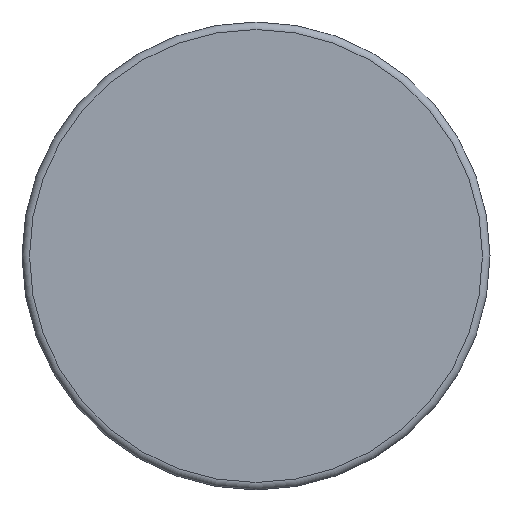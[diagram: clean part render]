
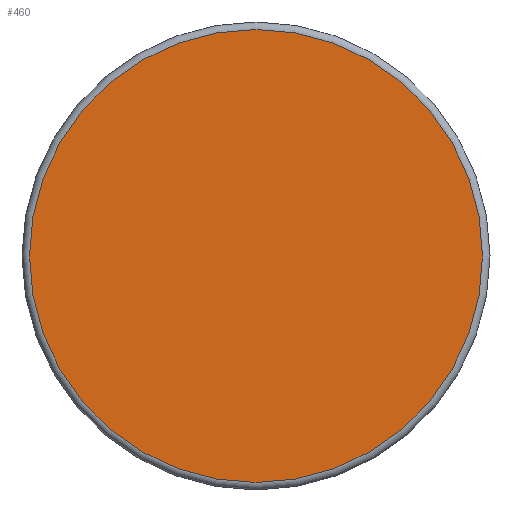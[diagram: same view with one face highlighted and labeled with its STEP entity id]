
A CAD part, top view. The second image highlights one B-rep face of the part: STEP entity #460.
In plain terms, the highlighted planar face has unit normal (0, 0, 1).
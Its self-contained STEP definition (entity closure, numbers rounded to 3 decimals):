
#429=CARTESIAN_POINT('',(300.05,0.,454.));
#430=VERTEX_POINT('',#429);
#431=CARTESIAN_POINT('',(0.,0.,454.));
#432=DIRECTION('',(0.0,0.0,-1.0));
#433=DIRECTION('',(-1.0,0.0,0.0));
#434=AXIS2_PLACEMENT_3D('',#431,#432,#433);
#435=CIRCLE('',#434,300.05);
#436=EDGE_CURVE('',#430,#430,#435,.T.);
#452=CARTESIAN_POINT('',(0.,0.,454.));
#453=DIRECTION('',(0.0,0.0,-1.0));
#454=DIRECTION('',(1.0,0.0,0.0));
#455=AXIS2_PLACEMENT_3D('',#452,#453,#454);
#456=PLANE('',#455);
#457=ORIENTED_EDGE('',*,*,#436,.F.);
#458=EDGE_LOOP('',(#457));
#459=FACE_OUTER_BOUND('',#458,.T.);
#460=ADVANCED_FACE('',(#459),#456,.F.);
